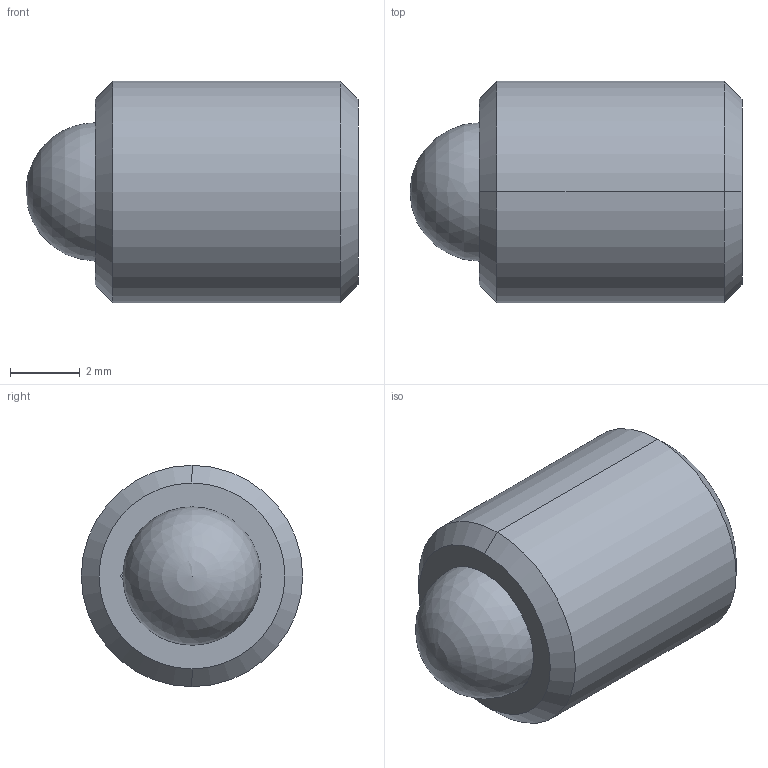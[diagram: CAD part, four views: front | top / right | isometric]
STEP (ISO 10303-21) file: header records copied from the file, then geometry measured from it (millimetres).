
FILE_DESCRIPTION (( 'STEP AP214' ), '1' );
FILE_NAME ('TS250-80-375-HV.STEP', '2013-05-09T12:53:49', ( 'workpc' ), ( 'Microsoft' ), 'SwSTEP 2.0', 'SolidWorks 2013', '' );
FILE_SCHEMA (( 'AUTOMOTIVE_DESIGN' ));
Length unit declared in the file: inch
Products named in the file (1): TS250-80-375-HV
Bounding box: 9.53 x 6.35 x 6.35 mm (x, y, z)
Volume: 231 mm3; surface area: 294.4 mm2
Topology: 2 solids, 2 shells, 29 faces, 69 edges, 44 vertices
Faces by surface type: cylinder 12, plane 11, cone 4, sphere 2
Entity records: 886 total; most frequent: DIRECTION 149, CARTESIAN_POINT 144, ORIENTED_EDGE 128, EDGE_CURVE 64, AXIS2_PLACEMENT_3D 58, VERTEX_POINT 41, LINE 33, VECTOR 33
